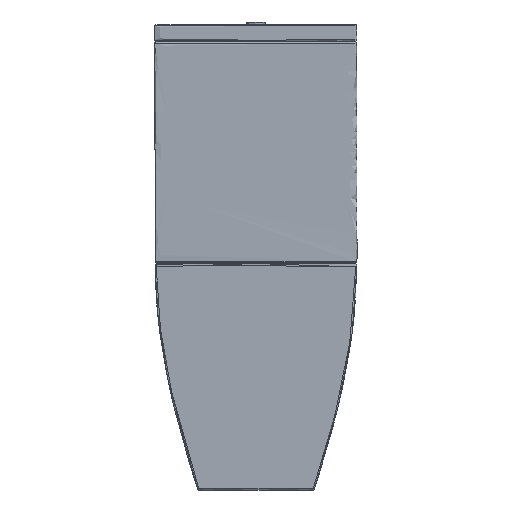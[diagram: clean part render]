
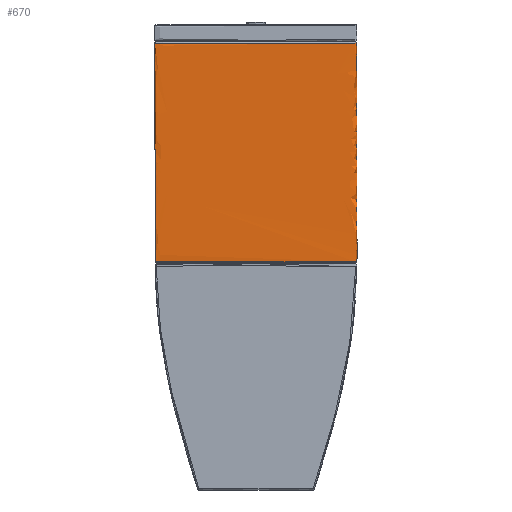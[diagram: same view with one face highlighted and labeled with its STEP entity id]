
A CAD part, front view. The second image highlights one B-rep face of the part: STEP entity #670.
In plain terms, the highlighted free-form (B-spline) face has degree [2, 1] with [11, 2] control points.
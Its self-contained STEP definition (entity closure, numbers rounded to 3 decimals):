
#670=ADVANCED_FACE('',(#1276),#9411,.T.);
#1276=FACE_OUTER_BOUND('',#1907,.T.);
#1907=EDGE_LOOP('',(#4718,#4719,#4720,#4721,#4722,#4723,#4724,#4725,#4726,
#4727));
#4718=ORIENTED_EDGE('',*,*,#6323,.T.);
#4719=ORIENTED_EDGE('',*,*,#6327,.T.);
#4720=ORIENTED_EDGE('',*,*,#6326,.T.);
#4721=ORIENTED_EDGE('',*,*,#6325,.T.);
#4722=ORIENTED_EDGE('',*,*,#6318,.T.);
#4723=ORIENTED_EDGE('',*,*,#6308,.F.);
#4724=ORIENTED_EDGE('',*,*,#6309,.F.);
#4725=ORIENTED_EDGE('',*,*,#6310,.F.);
#4726=ORIENTED_EDGE('',*,*,#6305,.F.);
#4727=ORIENTED_EDGE('',*,*,#6301,.T.);
#6301=EDGE_CURVE('',#8782,#8792,#7849,.T.);
#6305=EDGE_CURVE('',#8782,#8787,#7853,.T.);
#6308=EDGE_CURVE('',#8785,#8781,#7856,.T.);
#6309=EDGE_CURVE('',#8786,#8785,#7857,.T.);
#6310=EDGE_CURVE('',#8787,#8786,#7858,.T.);
#6318=EDGE_CURVE('',#8791,#8781,#7865,.T.);
#6323=EDGE_CURVE('',#8792,#8797,#7870,.T.);
#6325=EDGE_CURVE('',#8795,#8791,#7872,.T.);
#6326=EDGE_CURVE('',#8796,#8795,#7873,.T.);
#6327=EDGE_CURVE('',#8797,#8796,#7874,.T.);
#7849=(
BOUNDED_CURVE()
B_SPLINE_CURVE(1,(#42199,#42200),.UNSPECIFIED.,.F.,.F.)
B_SPLINE_CURVE_WITH_KNOTS((2,2),(-397.998,-1.998),
 .UNSPECIFIED.)
CURVE()
GEOMETRIC_REPRESENTATION_ITEM()
RATIONAL_B_SPLINE_CURVE((1.,1.))
REPRESENTATION_ITEM('')
);
#7853=(
BOUNDED_CURVE()
B_SPLINE_CURVE(3,(#42254,#42255,#42256,#42257),.UNSPECIFIED.,.F.,.F.)
B_SPLINE_CURVE_WITH_KNOTS((4,4),(0.004,0.789),
 .UNSPECIFIED.)
CURVE()
GEOMETRIC_REPRESENTATION_ITEM()
RATIONAL_B_SPLINE_CURVE((1.,1.,1.,1.))
REPRESENTATION_ITEM('')
);
#7856=(
BOUNDED_CURVE()
B_SPLINE_CURVE(3,(#42265,#42266,#42267,#42268),.UNSPECIFIED.,.F.,.F.)
B_SPLINE_CURVE_WITH_KNOTS((4,4),(362.379,464.346),
 .UNSPECIFIED.)
CURVE()
GEOMETRIC_REPRESENTATION_ITEM()
RATIONAL_B_SPLINE_CURVE((1.,1.,1.,1.))
REPRESENTATION_ITEM('')
);
#7857=(
BOUNDED_CURVE()
B_SPLINE_CURVE(3,(#42269,#42270,#42271,#42272),.UNSPECIFIED.,.F.,.F.)
B_SPLINE_CURVE_WITH_KNOTS((4,4),(360.808,362.379),
 .UNSPECIFIED.)
CURVE()
GEOMETRIC_REPRESENTATION_ITEM()
RATIONAL_B_SPLINE_CURVE((1.,1.,1.,1.))
REPRESENTATION_ITEM('')
);
#7858=(
BOUNDED_CURVE()
B_SPLINE_CURVE(3,(#42273,#42274,#42275,#42276,#42277,#42278,#42279),
 .UNSPECIFIED.,.F.,.F.)
B_SPLINE_CURVE_WITH_KNOTS((4,3,4),(0.789,1.574,360.808),
 .UNSPECIFIED.)
CURVE()
GEOMETRIC_REPRESENTATION_ITEM()
RATIONAL_B_SPLINE_CURVE((1.,1.,1.,1.,1.,1.,1.))
REPRESENTATION_ITEM('')
);
#7865=(
BOUNDED_CURVE()
B_SPLINE_CURVE(1,(#42311,#42312),.UNSPECIFIED.,.F.,.F.)
B_SPLINE_CURVE_WITH_KNOTS((2,2),(2.002,398.002),
 .UNSPECIFIED.)
CURVE()
GEOMETRIC_REPRESENTATION_ITEM()
RATIONAL_B_SPLINE_CURVE((1.,1.))
REPRESENTATION_ITEM('')
);
#7870=(
BOUNDED_CURVE()
B_SPLINE_CURVE(3,(#42363,#42364,#42365,#42366),.UNSPECIFIED.,.F.,.F.)
B_SPLINE_CURVE_WITH_KNOTS((4,4),(-0.004,0.782),
 .UNSPECIFIED.)
CURVE()
GEOMETRIC_REPRESENTATION_ITEM()
RATIONAL_B_SPLINE_CURVE((1.,1.,1.,1.))
REPRESENTATION_ITEM('')
);
#7872=(
BOUNDED_CURVE()
B_SPLINE_CURVE(3,(#42371,#42372,#42373,#42374),.UNSPECIFIED.,.F.,.F.)
B_SPLINE_CURVE_WITH_KNOTS((4,4),(362.371,464.338),
 .UNSPECIFIED.)
CURVE()
GEOMETRIC_REPRESENTATION_ITEM()
RATIONAL_B_SPLINE_CURVE((1.,1.,1.,1.))
REPRESENTATION_ITEM('')
);
#7873=(
BOUNDED_CURVE()
B_SPLINE_CURVE(3,(#42375,#42376,#42377,#42378),.UNSPECIFIED.,.F.,.F.)
B_SPLINE_CURVE_WITH_KNOTS((4,4),(360.801,362.371),
 .UNSPECIFIED.)
CURVE()
GEOMETRIC_REPRESENTATION_ITEM()
RATIONAL_B_SPLINE_CURVE((1.,1.,1.,1.))
REPRESENTATION_ITEM('')
);
#7874=(
BOUNDED_CURVE()
B_SPLINE_CURVE(3,(#42379,#42380,#42381,#42382,#42383,#42384,#42385),
 .UNSPECIFIED.,.F.,.F.)
B_SPLINE_CURVE_WITH_KNOTS((4,3,4),(0.782,1.567,360.801),
 .UNSPECIFIED.)
CURVE()
GEOMETRIC_REPRESENTATION_ITEM()
RATIONAL_B_SPLINE_CURVE((1.,1.,1.,1.,1.,1.,1.))
REPRESENTATION_ITEM('')
);
#8781=VERTEX_POINT('',#42174);
#8782=VERTEX_POINT('',#42175);
#8785=VERTEX_POINT('',#42178);
#8786=VERTEX_POINT('',#42179);
#8787=VERTEX_POINT('',#42180);
#8791=VERTEX_POINT('',#42184);
#8792=VERTEX_POINT('',#42185);
#8795=VERTEX_POINT('',#42188);
#8796=VERTEX_POINT('',#42189);
#8797=VERTEX_POINT('',#42190);
#9411=(
BOUNDED_SURFACE()
B_SPLINE_SURFACE(2,1,((#42045,#42046),(#42047,#42048),(#42049,#42050),(#42051,
#42052),(#42053,#42054),(#42055,#42056),(#42057,#42058),(#42059,#42060),
(#42061,#42062),(#42063,#42064),(#42065,#42066)),.UNSPECIFIED.,.F.,.F.,
 .F.)
B_SPLINE_SURFACE_WITH_KNOTS((3,2,2,2,2,3),(2,2),(-7.36,-2.356,
0.,359.233,363.946,522.388),(0.,400.),
 .UNSPECIFIED.)
GEOMETRIC_REPRESENTATION_ITEM()
RATIONAL_B_SPLINE_SURFACE(((1.363,1.363),(0.838,
0.838),(1.,1.),(0.924,0.924),(1.,1.),
(1.,1.),(1.,1.),(0.707,0.707),(1.,1.),(1.,1.),(1.,
1.)))
REPRESENTATION_ITEM('')
SURFACE()
);
#42045=CARTESIAN_POINT('',(-181.795,-129.946,1.153));
#42046=CARTESIAN_POINT('',(-182.288,-128.989,401.152));
#42047=CARTESIAN_POINT('',(-183.786,-132.065,1.158));
#42048=CARTESIAN_POINT('',(-184.279,-131.108,401.156));
#42049=CARTESIAN_POINT('',(-181.73,-134.121,1.163));
#42050=CARTESIAN_POINT('',(-182.223,-133.164,401.162));
#42051=CARTESIAN_POINT('',(-180.851,-135.,1.166));
#42052=CARTESIAN_POINT('',(-181.344,-134.043,401.164));
#42053=CARTESIAN_POINT('',(-179.609,-135.,1.166));
#42054=CARTESIAN_POINT('',(-180.102,-134.043,401.165));
#42055=CARTESIAN_POINT('',(0.008,-135.,1.23));
#42056=CARTESIAN_POINT('',(-0.485,-134.043,401.228));
#42057=CARTESIAN_POINT('',(179.625,-135.,1.293));
#42058=CARTESIAN_POINT('',(179.132,-134.043,401.292));
#42059=CARTESIAN_POINT('',(182.625,-135.,1.294));
#42060=CARTESIAN_POINT('',(182.132,-134.043,401.293));
#42061=CARTESIAN_POINT('',(182.625,-132.,1.294));
#42062=CARTESIAN_POINT('',(182.132,-131.043,401.293));
#42063=CARTESIAN_POINT('',(182.625,-52.779,1.294));
#42064=CARTESIAN_POINT('',(182.132,-51.822,401.293));
#42065=CARTESIAN_POINT('',(182.625,26.442,1.294));
#42066=CARTESIAN_POINT('',(182.132,27.399,401.293));
#42174=CARTESIAN_POINT('',(182.135,-29.081,399.294));
#42175=CARTESIAN_POINT('',(-183.098,-131.048,399.155));
#42178=CARTESIAN_POINT('',(182.134,-131.048,399.294));
#42179=CARTESIAN_POINT('',(179.134,-134.048,399.296));
#42180=CARTESIAN_POINT('',(-182.22,-133.169,399.159));
#42184=CARTESIAN_POINT('',(182.624,-30.028,3.296));
#42185=CARTESIAN_POINT('',(-182.61,-131.995,3.156));
#42188=CARTESIAN_POINT('',(182.622,-131.995,3.296));
#42189=CARTESIAN_POINT('',(179.622,-134.995,3.298));
#42190=CARTESIAN_POINT('',(-181.732,-134.117,3.16));
#42199=CARTESIAN_POINT('',(-183.098,-131.048,399.155));
#42200=CARTESIAN_POINT('',(-182.61,-131.995,3.156));
#42254=CARTESIAN_POINT('',(-183.098,-131.048,399.155));
#42255=CARTESIAN_POINT('',(-183.092,-131.832,399.156));
#42256=CARTESIAN_POINT('',(-182.798,-132.617,399.157));
#42257=CARTESIAN_POINT('',(-182.22,-133.169,399.159));
#42265=CARTESIAN_POINT('',(182.134,-131.048,399.294));
#42266=CARTESIAN_POINT('',(182.134,-97.059,399.294));
#42267=CARTESIAN_POINT('',(182.134,-63.07,399.294));
#42268=CARTESIAN_POINT('',(182.135,-29.081,399.294));
#42269=CARTESIAN_POINT('',(179.134,-134.048,399.296));
#42270=CARTESIAN_POINT('',(180.737,-134.089,399.298));
#42271=CARTESIAN_POINT('',(182.175,-132.651,399.297));
#42272=CARTESIAN_POINT('',(182.134,-131.048,399.294));
#42273=CARTESIAN_POINT('',(-182.22,-133.169,399.159));
#42274=CARTESIAN_POINT('',(-181.667,-133.728,399.16));
#42275=CARTESIAN_POINT('',(-180.886,-134.051,399.162));
#42276=CARTESIAN_POINT('',(-180.099,-134.048,399.162));
#42277=CARTESIAN_POINT('',(-60.355,-134.048,399.207));
#42278=CARTESIAN_POINT('',(59.39,-134.048,399.252));
#42279=CARTESIAN_POINT('',(179.134,-134.048,399.296));
#42311=CARTESIAN_POINT('',(182.624,-30.028,3.296));
#42312=CARTESIAN_POINT('',(182.135,-29.081,399.294));
#42363=CARTESIAN_POINT('',(-182.61,-131.995,3.156));
#42364=CARTESIAN_POINT('',(-182.604,-132.78,3.157));
#42365=CARTESIAN_POINT('',(-182.31,-133.565,3.159));
#42366=CARTESIAN_POINT('',(-181.732,-134.117,3.16));
#42371=CARTESIAN_POINT('',(182.622,-131.995,3.296));
#42372=CARTESIAN_POINT('',(182.622,-98.006,3.296));
#42373=CARTESIAN_POINT('',(182.622,-64.017,3.296));
#42374=CARTESIAN_POINT('',(182.624,-30.028,3.296));
#42375=CARTESIAN_POINT('',(179.622,-134.995,3.298));
#42376=CARTESIAN_POINT('',(181.225,-135.036,3.299));
#42377=CARTESIAN_POINT('',(182.663,-133.598,3.299));
#42378=CARTESIAN_POINT('',(182.622,-131.995,3.296));
#42379=CARTESIAN_POINT('',(-181.732,-134.117,3.16));
#42380=CARTESIAN_POINT('',(-181.179,-134.675,3.162));
#42381=CARTESIAN_POINT('',(-180.398,-134.999,3.163));
#42382=CARTESIAN_POINT('',(-179.611,-134.995,3.164));
#42383=CARTESIAN_POINT('',(-59.867,-134.995,3.208));
#42384=CARTESIAN_POINT('',(59.878,-134.995,3.253));
#42385=CARTESIAN_POINT('',(179.622,-134.995,3.298));
